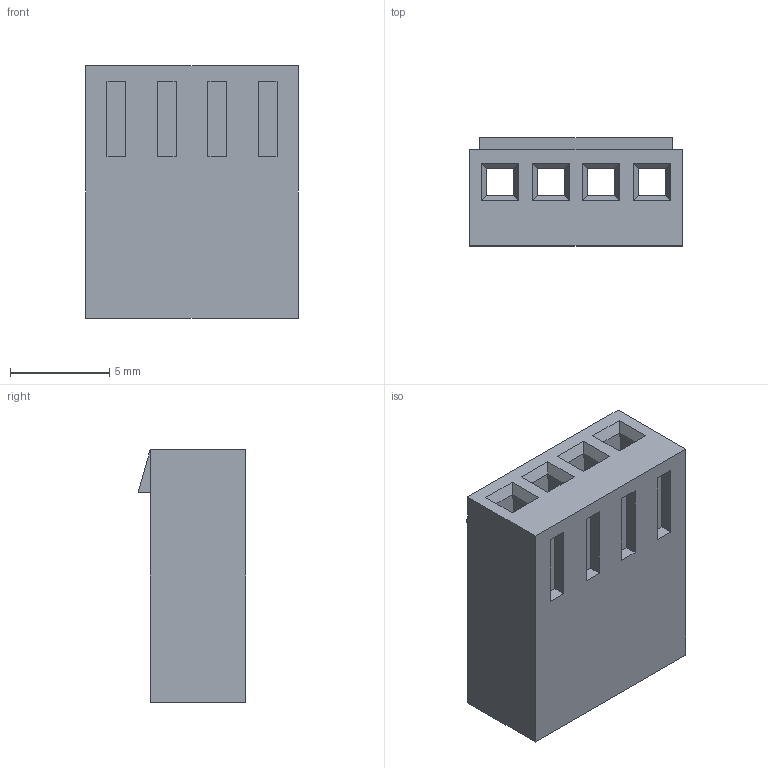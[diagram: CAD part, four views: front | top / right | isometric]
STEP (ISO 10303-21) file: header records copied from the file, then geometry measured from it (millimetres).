
FILE_DESCRIPTION((''),'2;1');
FILE_NAME('022012047','2010-01-08T',('pnb'),(''),'PRO/ENGINEER BY PARAMETRIC TECHNOLOGY CORPORATION, 2003451','PRO/ENGINEER BY PARAMETRIC TECHNOLOGY CORPORATION, 2003451','');
FILE_SCHEMA(('CONFIG_CONTROL_DESIGN'));
Length unit declared in the file: inch
Products named in the file (1): 022012047
Bounding box: 10.72 x 5.44 x 12.7 mm (x, y, z)
Volume: 434.7 mm3; surface area: 968.7 mm2
Topology: 1 solids, 1 shells, 94 faces, 253 edges, 172 vertices
Faces by surface type: plane 94
Entity records: 2906 total; most frequent: CARTESIAN_POINT 506, ORIENTED_EDGE 492, DIRECTION 443, VECTOR 253, LINE 253, EDGE_CURVE 246, VERTEX_POINT 158, EDGE_LOOP 106
